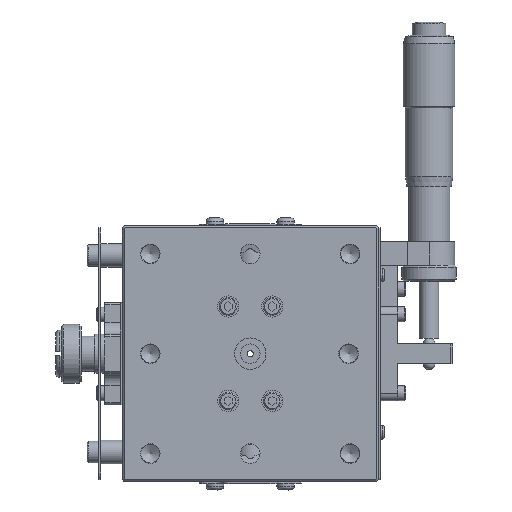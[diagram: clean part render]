
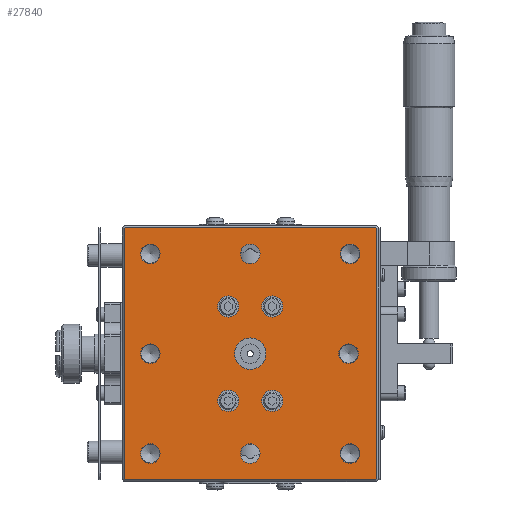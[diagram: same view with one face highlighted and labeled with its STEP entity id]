
A CAD part, top view. The second image highlights one B-rep face of the part: STEP entity #27840.
In plain terms, the highlighted planar face has unit normal (0, 0, 1).
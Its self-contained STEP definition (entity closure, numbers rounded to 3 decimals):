
#27296=CARTESIAN_POINT('',(-32.0,31.793,-100.0));
#27297=VERTEX_POINT('',#27296);
#27298=CARTESIAN_POINT('',(-31.793,32.,-100.0));
#27299=VERTEX_POINT('',#27298);
#27300=CARTESIAN_POINT('',(-32.0,31.793,-100.0));
#27301=DIRECTION('',(0.707,0.707,0.0));
#27302=VECTOR('',#27301,0.293);
#27303=LINE('',#27300,#27302);
#27304=EDGE_CURVE('',#27297,#27299,#27303,.T.);
#27336=CARTESIAN_POINT('',(-32.0,-31.793,-100.0));
#27337=VERTEX_POINT('',#27336);
#27338=CARTESIAN_POINT('',(-32.0,-31.793,-100.0));
#27339=DIRECTION('',(0.0,1.0,0.0));
#27340=VECTOR('',#27339,63.586);
#27341=LINE('',#27338,#27340);
#27342=EDGE_CURVE('',#27337,#27297,#27341,.T.);
#27386=CARTESIAN_POINT('',(31.793,32.,-100.0));
#27387=VERTEX_POINT('',#27386);
#27388=CARTESIAN_POINT('',(-31.793,32.,-100.0));
#27389=DIRECTION('',(1.0,0.0,0.0));
#27390=VECTOR('',#27389,63.586);
#27391=LINE('',#27388,#27390);
#27392=EDGE_CURVE('',#27299,#27387,#27391,.T.);
#27408=CARTESIAN_POINT('',(31.793,-32.,-100.0));
#27409=VERTEX_POINT('',#27408);
#27410=CARTESIAN_POINT('',(-31.793,-32.,-100.0));
#27411=VERTEX_POINT('',#27410);
#27412=CARTESIAN_POINT('',(31.793,-32.,-100.0));
#27413=DIRECTION('',(-1.0,0.0,0.0));
#27414=VECTOR('',#27413,63.586);
#27415=LINE('',#27412,#27414);
#27416=EDGE_CURVE('',#27409,#27411,#27415,.T.);
#27446=CARTESIAN_POINT('',(32.,-31.793,-100.0));
#27447=VERTEX_POINT('',#27446);
#27448=CARTESIAN_POINT('',(32.,-31.793,-100.0));
#27449=DIRECTION('',(-0.707,-0.707,0.0));
#27450=VECTOR('',#27449,0.293);
#27451=LINE('',#27448,#27450);
#27452=EDGE_CURVE('',#27447,#27409,#27451,.T.);
#27475=CARTESIAN_POINT('',(32.,31.793,-100.0));
#27476=VERTEX_POINT('',#27475);
#27477=CARTESIAN_POINT('',(32.,31.793,-100.0));
#27478=DIRECTION('',(0.0,-1.0,0.0));
#27479=VECTOR('',#27478,63.586);
#27480=LINE('',#27477,#27479);
#27481=EDGE_CURVE('',#27476,#27447,#27480,.T.);
#27501=CARTESIAN_POINT('',(31.793,32.,-100.0));
#27502=DIRECTION('',(0.707,-0.707,0.0));
#27503=VECTOR('',#27502,0.293);
#27504=LINE('',#27501,#27503);
#27505=EDGE_CURVE('',#27387,#27476,#27504,.T.);
#27518=CARTESIAN_POINT('',(-31.793,-32.,-100.0));
#27519=DIRECTION('',(-0.707,0.707,0.0));
#27520=VECTOR('',#27519,0.293);
#27521=LINE('',#27518,#27520);
#27522=EDGE_CURVE('',#27411,#27337,#27521,.T.);
#27682=CARTESIAN_POINT('',(32.5,-32.5,-100.0));
#27683=DIRECTION('',(0.0,0.0,-1.0));
#27684=DIRECTION('',(-1.0,0.0,0.0));
#27685=AXIS2_PLACEMENT_3D('',#27682,#27683,#27684);
#27686=PLANE('',#27685);
#27687=ORIENTED_EDGE('',*,*,#27416,.F.);
#27688=ORIENTED_EDGE('',*,*,#27452,.F.);
#27689=ORIENTED_EDGE('',*,*,#27481,.F.);
#27690=ORIENTED_EDGE('',*,*,#27505,.F.);
#27691=ORIENTED_EDGE('',*,*,#27392,.F.);
#27692=ORIENTED_EDGE('',*,*,#27304,.F.);
#27693=ORIENTED_EDGE('',*,*,#27342,.F.);
#27694=ORIENTED_EDGE('',*,*,#27522,.F.);
#27695=EDGE_LOOP('',(#27687,#27688,#27689,#27690,#27691,#27692,#27693,#27694));
#27696=FACE_OUTER_BOUND('',#27695,.T.);
#27697=CARTESIAN_POINT('',(4.,0.,-100.0));
#27698=VERTEX_POINT('',#27697);
#27699=CARTESIAN_POINT('',(0.,0.,-100.0));
#27700=DIRECTION('',(0.0,0.0,-1.0));
#27701=DIRECTION('',(-1.0,0.0,0.0));
#27702=AXIS2_PLACEMENT_3D('',#27699,#27700,#27701);
#27703=CIRCLE('',#27702,4.0);
#27704=EDGE_CURVE('',#27698,#27698,#27703,.T.);
#27705=ORIENTED_EDGE('',*,*,#27704,.T.);
#27706=EDGE_LOOP('',(#27705));
#27707=FACE_BOUND('',#27706,.T.);
#27708=CARTESIAN_POINT('',(2.489,25.4,-100.0));
#27709=VERTEX_POINT('',#27708);
#27710=CARTESIAN_POINT('',(0.,25.4,-100.0));
#27711=DIRECTION('',(0.0,0.0,-1.0));
#27712=DIRECTION('',(1.0,0.0,0.0));
#27713=AXIS2_PLACEMENT_3D('',#27710,#27711,#27712);
#27714=CIRCLE('',#27713,2.489);
#27715=EDGE_CURVE('',#27709,#27709,#27714,.T.);
#27716=ORIENTED_EDGE('',*,*,#27715,.T.);
#27717=EDGE_LOOP('',(#27716));
#27718=FACE_BOUND('',#27717,.T.);
#27719=CARTESIAN_POINT('',(2.489,-25.4,-100.0));
#27720=VERTEX_POINT('',#27719);
#27721=CARTESIAN_POINT('',(0.,-25.4,-100.0));
#27722=DIRECTION('',(0.0,0.0,-1.0));
#27723=DIRECTION('',(1.0,0.0,0.0));
#27724=AXIS2_PLACEMENT_3D('',#27721,#27722,#27723);
#27725=CIRCLE('',#27724,2.489);
#27726=EDGE_CURVE('',#27720,#27720,#27725,.T.);
#27727=ORIENTED_EDGE('',*,*,#27726,.T.);
#27728=EDGE_LOOP('',(#27727));
#27729=FACE_BOUND('',#27728,.T.);
#27730=CARTESIAN_POINT('',(27.489,0.,-100.0));
#27731=VERTEX_POINT('',#27730);
#27732=CARTESIAN_POINT('',(25.0,0.,-100.0));
#27733=DIRECTION('',(0.0,0.0,-1.0));
#27734=DIRECTION('',(1.0,0.0,0.0));
#27735=AXIS2_PLACEMENT_3D('',#27732,#27733,#27734);
#27736=CIRCLE('',#27735,2.489);
#27737=EDGE_CURVE('',#27731,#27731,#27736,.T.);
#27738=ORIENTED_EDGE('',*,*,#27737,.T.);
#27739=EDGE_LOOP('',(#27738));
#27740=FACE_BOUND('',#27739,.T.);
#27741=CARTESIAN_POINT('',(-22.911,0.,-100.0));
#27742=VERTEX_POINT('',#27741);
#27743=CARTESIAN_POINT('',(-25.4,0.,-100.0));
#27744=DIRECTION('',(0.0,0.0,-1.0));
#27745=DIRECTION('',(1.0,0.0,0.0));
#27746=AXIS2_PLACEMENT_3D('',#27743,#27744,#27745);
#27747=CIRCLE('',#27746,2.489);
#27748=EDGE_CURVE('',#27742,#27742,#27747,.T.);
#27749=ORIENTED_EDGE('',*,*,#27748,.T.);
#27750=EDGE_LOOP('',(#27749));
#27751=FACE_BOUND('',#27750,.T.);
#27752=CARTESIAN_POINT('',(27.889,25.4,-100.0));
#27753=VERTEX_POINT('',#27752);
#27754=CARTESIAN_POINT('',(25.4,25.4,-100.0));
#27755=DIRECTION('',(0.0,0.0,-1.0));
#27756=DIRECTION('',(1.0,0.0,0.0));
#27757=AXIS2_PLACEMENT_3D('',#27754,#27755,#27756);
#27758=CIRCLE('',#27757,2.489);
#27759=EDGE_CURVE('',#27753,#27753,#27758,.T.);
#27760=ORIENTED_EDGE('',*,*,#27759,.T.);
#27761=EDGE_LOOP('',(#27760));
#27762=FACE_BOUND('',#27761,.T.);
#27763=CARTESIAN_POINT('',(-22.911,25.4,-100.0));
#27764=VERTEX_POINT('',#27763);
#27765=CARTESIAN_POINT('',(-25.4,25.4,-100.0));
#27766=DIRECTION('',(0.0,0.0,-1.0));
#27767=DIRECTION('',(1.0,0.0,0.0));
#27768=AXIS2_PLACEMENT_3D('',#27765,#27766,#27767);
#27769=CIRCLE('',#27768,2.489);
#27770=EDGE_CURVE('',#27764,#27764,#27769,.T.);
#27771=ORIENTED_EDGE('',*,*,#27770,.T.);
#27772=EDGE_LOOP('',(#27771));
#27773=FACE_BOUND('',#27772,.T.);
#27774=CARTESIAN_POINT('',(27.889,-25.4,-100.0));
#27775=VERTEX_POINT('',#27774);
#27776=CARTESIAN_POINT('',(25.4,-25.4,-100.0));
#27777=DIRECTION('',(0.0,0.0,-1.0));
#27778=DIRECTION('',(1.0,0.0,0.0));
#27779=AXIS2_PLACEMENT_3D('',#27776,#27777,#27778);
#27780=CIRCLE('',#27779,2.489);
#27781=EDGE_CURVE('',#27775,#27775,#27780,.T.);
#27782=ORIENTED_EDGE('',*,*,#27781,.T.);
#27783=EDGE_LOOP('',(#27782));
#27784=FACE_BOUND('',#27783,.T.);
#27785=CARTESIAN_POINT('',(-22.911,-25.4,-100.0));
#27786=VERTEX_POINT('',#27785);
#27787=CARTESIAN_POINT('',(-25.4,-25.4,-100.0));
#27788=DIRECTION('',(0.0,0.0,-1.0));
#27789=DIRECTION('',(1.0,0.0,0.0));
#27790=AXIS2_PLACEMENT_3D('',#27787,#27788,#27789);
#27791=CIRCLE('',#27790,2.489);
#27792=EDGE_CURVE('',#27786,#27786,#27791,.T.);
#27793=ORIENTED_EDGE('',*,*,#27792,.T.);
#27794=EDGE_LOOP('',(#27793));
#27795=FACE_BOUND('',#27794,.T.);
#27796=CARTESIAN_POINT('',(8.3,12.,-100.0));
#27797=VERTEX_POINT('',#27796);
#27798=CARTESIAN_POINT('',(5.6,12.,-100.0));
#27799=DIRECTION('',(0.0,0.0,-1.0));
#27800=DIRECTION('',(1.0,0.0,0.0));
#27801=AXIS2_PLACEMENT_3D('',#27798,#27799,#27800);
#27802=CIRCLE('',#27801,2.7);
#27803=EDGE_CURVE('',#27797,#27797,#27802,.T.);
#27804=ORIENTED_EDGE('',*,*,#27803,.T.);
#27805=EDGE_LOOP('',(#27804));
#27806=FACE_BOUND('',#27805,.T.);
#27807=CARTESIAN_POINT('',(-2.9,12.,-100.0));
#27808=VERTEX_POINT('',#27807);
#27809=CARTESIAN_POINT('',(-5.6,12.,-100.0));
#27810=DIRECTION('',(0.0,0.0,-1.0));
#27811=DIRECTION('',(1.0,0.0,0.0));
#27812=AXIS2_PLACEMENT_3D('',#27809,#27810,#27811);
#27813=CIRCLE('',#27812,2.7);
#27814=EDGE_CURVE('',#27808,#27808,#27813,.T.);
#27815=ORIENTED_EDGE('',*,*,#27814,.T.);
#27816=EDGE_LOOP('',(#27815));
#27817=FACE_BOUND('',#27816,.T.);
#27818=CARTESIAN_POINT('',(8.3,-12.,-100.0));
#27819=VERTEX_POINT('',#27818);
#27820=CARTESIAN_POINT('',(5.6,-12.,-100.0));
#27821=DIRECTION('',(0.0,0.0,-1.0));
#27822=DIRECTION('',(1.0,0.0,0.0));
#27823=AXIS2_PLACEMENT_3D('',#27820,#27821,#27822);
#27824=CIRCLE('',#27823,2.7);
#27825=EDGE_CURVE('',#27819,#27819,#27824,.T.);
#27826=ORIENTED_EDGE('',*,*,#27825,.T.);
#27827=EDGE_LOOP('',(#27826));
#27828=FACE_BOUND('',#27827,.T.);
#27829=CARTESIAN_POINT('',(-2.9,-12.,-100.0));
#27830=VERTEX_POINT('',#27829);
#27831=CARTESIAN_POINT('',(-5.6,-12.,-100.0));
#27832=DIRECTION('',(0.0,0.0,-1.0));
#27833=DIRECTION('',(1.0,0.0,0.0));
#27834=AXIS2_PLACEMENT_3D('',#27831,#27832,#27833);
#27835=CIRCLE('',#27834,2.7);
#27836=EDGE_CURVE('',#27830,#27830,#27835,.T.);
#27837=ORIENTED_EDGE('',*,*,#27836,.T.);
#27838=EDGE_LOOP('',(#27837));
#27839=FACE_BOUND('',#27838,.T.);
#27840=ADVANCED_FACE('',(#27696,#27707,#27718,#27729,#27740,#27751,#27762,#27773,#27784,#27795,#27806,#27817,#27828,#27839),#27686,.F.);
